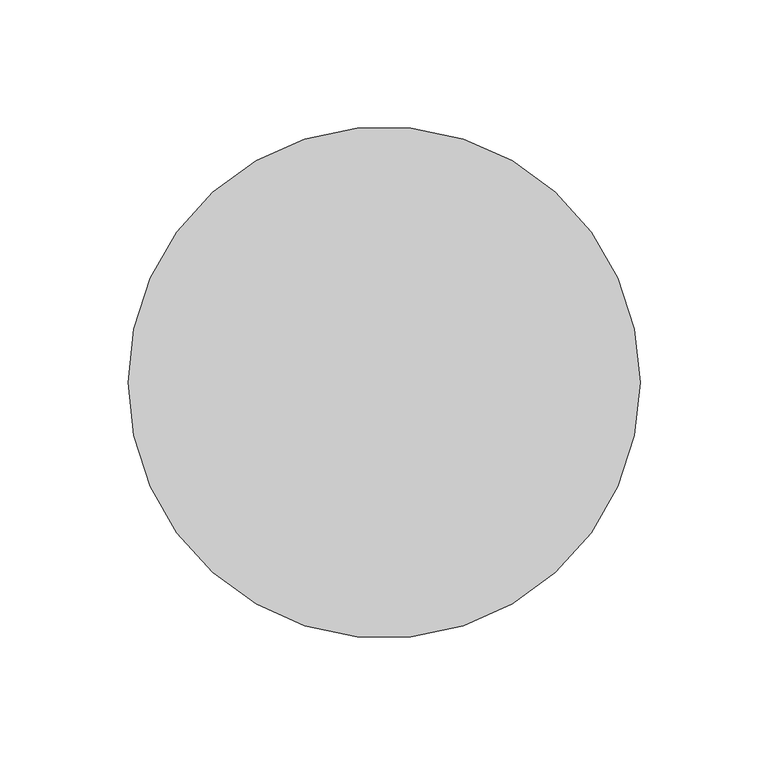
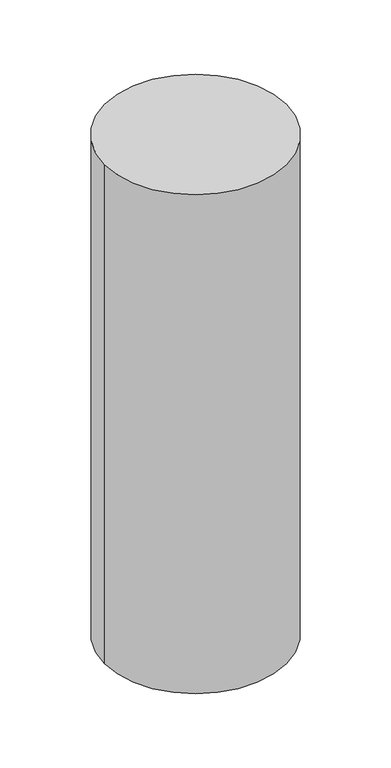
"""IFC4 building model written with IfcOpenShell, lengths in millimetres: proxy geometry, Zylinder : Zylinder."""

from ifc_helpers import new_model, si_unit, point, frame, frame_2d, origin, place, context, project, spatial, circle_curve, trimmed, segment, composite_curve, outline, extrude, source, transform, mapped, element, save


def generic_models_0e3afcba(model_context):
    return source(origin(), model_context, "Body", "SweptSolid", [
        extrude(outline(composite_curve([segment(trimmed(circle_curve(frame_2d((1143.738963, 12290.966036)), 100.0), [point((1043.738963, 12290.966036))], [point((1243.738963, 12290.966036))], False, "CARTESIAN"), True, "CONTINUOUS"), segment(trimmed(circle_curve(frame_2d((1143.738963, 12290.966036)), 100.0), [point((1243.738963, 12290.966036))], [point((1043.738963, 12290.966036))], False, "CARTESIAN"), True, "CONTINUOUS")], self_intersect=False)), frame((0.0, 0.0, 2950.0), z_axis=(0.0, 0.0, 1.0), x_axis=(1.0, 0.0, 0.0)), (0.0, 0.0, 1.0), 580.0),
    ])


if __name__ == "__main__":
    model = new_model("IFC4")
    model_context = context("Model", 3, world=origin())
    ifc_project = project(units=[si_unit("LENGTHUNIT", "METRE", prefix="MILLI")], contexts=[model_context])
    site = spatial("IfcSite", under=ifc_project)
    building = spatial("IfcBuilding", under=site)
    placement = place(None, origin())
    generic_models_shape = generic_models_0e3afcba(model_context)
    element("IfcBuildingElementProxy", 1, Name="Zylinder : Zylinder", ObjectType="Zylinder : Zylinder", at=placement, inside=building, context=model_context, shape_type="MappedRepresentation", body=[
        mapped(generic_models_shape, transform((0.0, 0.0, 0.0), x_axis=(1.0, 0.0, 0.0), y_axis=(0.0, 1.0, 0.0), z_axis=(0.0, 0.0, 1.0))),
    ])
    save(model, "model.ifc")
